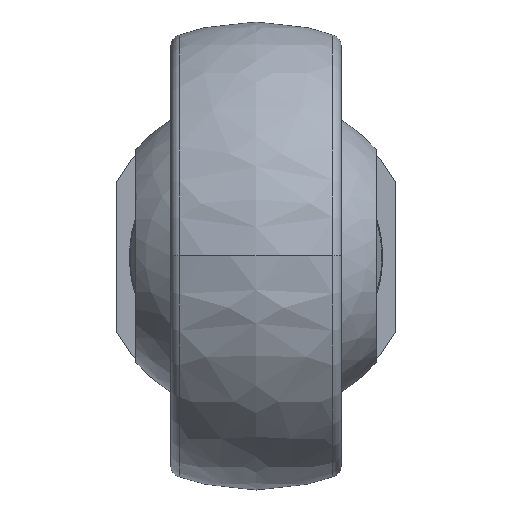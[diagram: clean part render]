
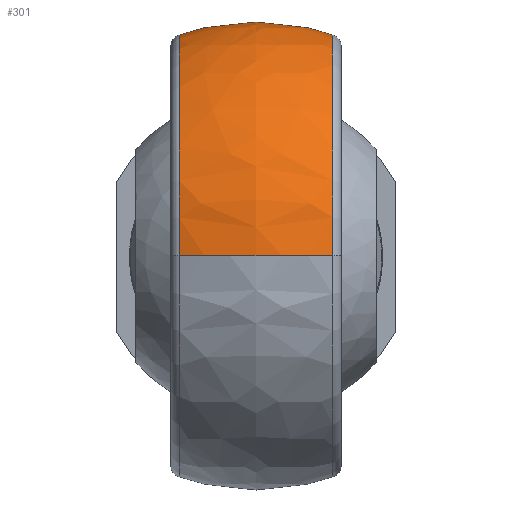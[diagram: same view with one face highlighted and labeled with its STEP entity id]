
A CAD part, top view. The second image highlights one B-rep face of the part: STEP entity #301.
In plain terms, the highlighted spherical face has radius 18.5 mm.
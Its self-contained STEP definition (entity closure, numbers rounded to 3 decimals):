
#91 = CIRCLE ( 'NONE', #424, 17.473 ) ;
#203 = CARTESIAN_POINT ( 'NONE',  ( 6.079, 0., 250.473 ) ) ;
#219 = FACE_OUTER_BOUND ( 'NONE', #1123, .T. ) ;
#256 = EDGE_CURVE ( 'NONE', #1680, #1020, #901, .T. ) ;
#301 = ADVANCED_FACE ( 'NONE', ( #219 ), #857, .T. ) ;
#309 = VERTEX_POINT ( 'NONE', #203 ) ;
#329 = DIRECTION ( 'NONE',  ( -1., 0., 0. ) ) ;
#390 = AXIS2_PLACEMENT_3D ( 'NONE', #1011, #329, #1494 ) ;
#392 = DIRECTION ( 'NONE',  ( 0., 1., 0. ) ) ;
#424 = AXIS2_PLACEMENT_3D ( 'NONE', #446, #587, #1080 ) ;
#446 = CARTESIAN_POINT ( 'NONE',  ( 6.079, 0., 233. ) ) ;
#587 = DIRECTION ( 'NONE',  ( 1., 0., 0. ) ) ;
#613 = CARTESIAN_POINT ( 'NONE',  ( -6.079, 11.471, 219.82 ) ) ;
#702 = CARTESIAN_POINT ( 'NONE',  ( 0., 0., 233. ) ) ;
#795 = CARTESIAN_POINT ( 'NONE',  ( 0., 0., 219.82 ) ) ;
#836 = ORIENTED_EDGE ( 'NONE', *, *, #1009, .F. ) ;
#857 = SPHERICAL_SURFACE ( 'NONE', #1337, 18.5 ) ;
#901 = CIRCLE ( 'NONE', #1710, 12.982 ) ;
#927 = CARTESIAN_POINT ( 'NONE',  ( -6.079, 0., 250.473 ) ) ;
#949 = EDGE_CURVE ( 'NONE', #1014, #309, #1110, .T. ) ;
#1009 = EDGE_CURVE ( 'NONE', #1020, #309, #91, .T. ) ;
#1011 = CARTESIAN_POINT ( 'NONE',  ( -6.079, 0., 233. ) ) ;
#1014 = VERTEX_POINT ( 'NONE', #927 ) ;
#1020 = VERTEX_POINT ( 'NONE', #1226 ) ;
#1080 = DIRECTION ( 'NONE',  ( 0., 0., 1. ) ) ;
#1110 = CIRCLE ( 'NONE', #1871, 18.5 ) ;
#1123 = EDGE_LOOP ( 'NONE', ( #1759, #1646, #836, #1838 ) ) ;
#1151 = EDGE_CURVE ( 'NONE', #1014, #1680, #1289, .T. ) ;
#1226 = CARTESIAN_POINT ( 'NONE',  ( 6.079, 11.471, 219.82 ) ) ;
#1289 = CIRCLE ( 'NONE', #390, 17.473 ) ;
#1327 = DIRECTION ( 'NONE',  ( 0., -1., 0. ) ) ;
#1337 = AXIS2_PLACEMENT_3D ( 'NONE', #702, #1327, #1990 ) ;
#1494 = DIRECTION ( 'NONE',  ( 0., 0., 1. ) ) ;
#1519 = DIRECTION ( 'NONE',  ( 0., 0., 1. ) ) ;
#1646 = ORIENTED_EDGE ( 'NONE', *, *, #949, .T. ) ;
#1680 = VERTEX_POINT ( 'NONE', #613 ) ;
#1710 = AXIS2_PLACEMENT_3D ( 'NONE', #795, #2077, #1763 ) ;
#1759 = ORIENTED_EDGE ( 'NONE', *, *, #1151, .F. ) ;
#1763 = DIRECTION ( 'NONE',  ( 0., 1., 0. ) ) ;
#1838 = ORIENTED_EDGE ( 'NONE', *, *, #256, .F. ) ;
#1871 = AXIS2_PLACEMENT_3D ( 'NONE', #1979, #392, #1519 ) ;
#1979 = CARTESIAN_POINT ( 'NONE',  ( 0., 0., 233. ) ) ;
#1990 = DIRECTION ( 'NONE',  ( 0., 0., 1. ) ) ;
#2077 = DIRECTION ( 'NONE',  ( 0., 0., -1. ) ) ;
